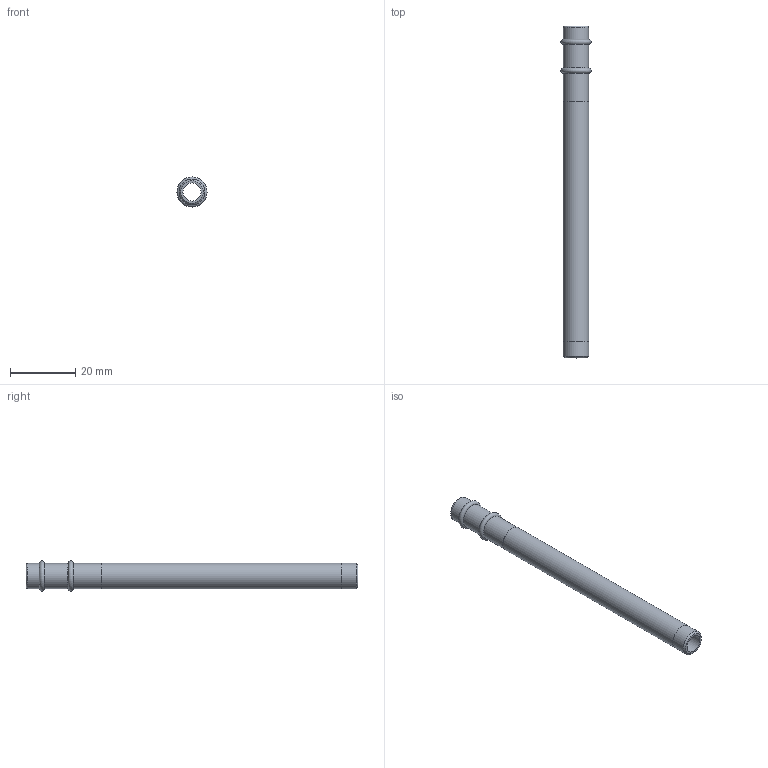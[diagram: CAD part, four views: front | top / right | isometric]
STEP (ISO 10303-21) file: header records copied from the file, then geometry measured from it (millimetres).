
FILE_DESCRIPTION(/* description */ (''),/* implementation_level */ '2;1');
FILE_NAME(/* name */ 'C:/Users/drich/Desktop/cad/Cascades/Jet Cool/Components/Outer Tubes/O-Ring Type/JCT-18-OR- v1.step',/* time_stamp */ '2020-01-10T15:16:37-06:00',/* author */ (''),/* organization */ (''),/* preprocessor_version */ 'ST-DEVELOPER v18',/* originating_system */ 'Autodesk Translation Framework v8.12.0.6',/* authorisation */ '');
FILE_SCHEMA (('AUTOMOTIVE_DESIGN { 1 0 10303 214 3 1 1 }'));
Length unit declared in the file: inch
Products named in the file (1): JCT-18-OR-
Bounding box: 9.22 x 101.6 x 9.22 mm (x, y, z)
Volume: 2482.4 mm3; surface area: 4613.7 mm2
Topology: 3 solids, 3 shells, 21 faces, 52 edges, 39 vertices
Faces by surface type: cylinder 8, plane 8, torus 4, cone 1
Full cylindrical faces by diameter (mm): 5.588 x1, 6.172 x2, 7.722 x3, 7.874 x1, 7.925 x1
Entity records: 732 total; most frequent: DIRECTION 139, CARTESIAN_POINT 113, ORIENTED_EDGE 104, AXIS2_PLACEMENT_3D 65, EDGE_CURVE 52, CIRCLE 43, VERTEX_POINT 39, EDGE_LOOP 29
